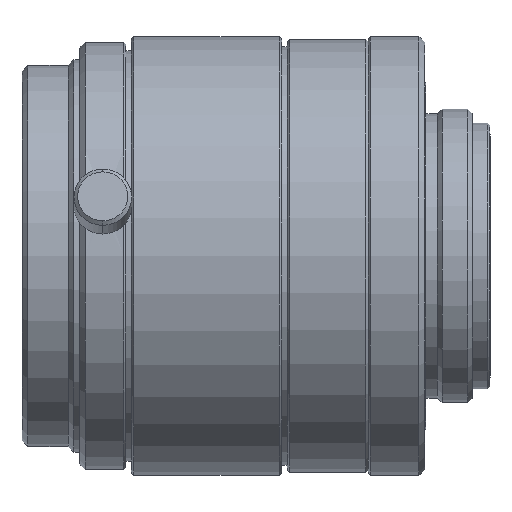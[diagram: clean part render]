
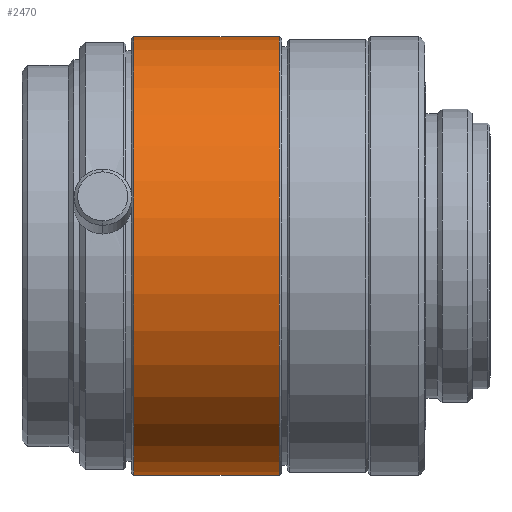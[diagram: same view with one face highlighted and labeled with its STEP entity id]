
A CAD part, top view. The second image highlights one B-rep face of the part: STEP entity #2470.
In plain terms, the highlighted cylindrical face has radius 19 mm (diameter 38 mm), a partial arc.
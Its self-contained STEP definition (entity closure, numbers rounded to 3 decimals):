
#49 = DIRECTION ( 'NONE',  ( 0., 1., 0. ) ) ;
#86 = DIRECTION ( 'NONE',  ( 0., 1., 0. ) ) ;
#206 = ORIENTED_EDGE ( 'NONE', *, *, #2044, .T. ) ;
#326 = VECTOR ( 'NONE', #734, 1000. ) ;
#421 = CARTESIAN_POINT ( 'NONE',  ( -42.826, -19., 0. ) ) ;
#445 = CARTESIAN_POINT ( 'NONE',  ( -42.826, 19., 0. ) ) ;
#457 = ORIENTED_EDGE ( 'NONE', *, *, #2351, .T. ) ;
#581 = ORIENTED_EDGE ( 'NONE', *, *, #2793, .F. ) ;
#645 = DIRECTION ( 'NONE',  ( 1., 0., 0. ) ) ;
#650 = VERTEX_POINT ( 'NONE', #421 ) ;
#734 = DIRECTION ( 'NONE',  ( 1., 0., 0. ) ) ;
#893 = CIRCLE ( 'NONE', #2580, 19. ) ;
#901 = ORIENTED_EDGE ( 'NONE', *, *, #1614, .F. ) ;
#921 = VERTEX_POINT ( 'NONE', #1112 ) ;
#1015 = VERTEX_POINT ( 'NONE', #445 ) ;
#1077 = DIRECTION ( 'NONE',  ( 1., 0., 0. ) ) ;
#1112 = CARTESIAN_POINT ( 'NONE',  ( -30.226, 19., 0. ) ) ;
#1157 = AXIS2_PLACEMENT_3D ( 'NONE', #2920, #1484, #49 ) ;
#1322 = DIRECTION ( 'NONE',  ( 0., 1., 0. ) ) ;
#1484 = DIRECTION ( 'NONE',  ( 1., 0., 0. ) ) ;
#1530 = DIRECTION ( 'NONE',  ( 1., 0., 0. ) ) ;
#1576 = CARTESIAN_POINT ( 'NONE',  ( 0., 0., 0. ) ) ;
#1599 = LINE ( 'NONE', #2191, #326 ) ;
#1614 = EDGE_CURVE ( 'NONE', #1015, #921, #3071, .T. ) ;
#1622 = CARTESIAN_POINT ( 'NONE',  ( -30.226, -19., 0. ) ) ;
#1630 = VERTEX_POINT ( 'NONE', #1622 ) ;
#1811 = AXIS2_PLACEMENT_3D ( 'NONE', #1576, #1077, #1322 ) ;
#1917 = CYLINDRICAL_SURFACE ( 'NONE', #1811, 19. ) ;
#2044 = EDGE_CURVE ( 'NONE', #1015, #650, #893, .T. ) ;
#2191 = CARTESIAN_POINT ( 'NONE',  ( 0., -19., 0. ) ) ;
#2351 = EDGE_CURVE ( 'NONE', #650, #1630, #1599, .T. ) ;
#2364 = CIRCLE ( 'NONE', #1157, 19. ) ;
#2452 = VECTOR ( 'NONE', #645, 1000. ) ;
#2470 = ADVANCED_FACE ( 'NONE', ( #2627 ), #1917, .T. ) ;
#2580 = AXIS2_PLACEMENT_3D ( 'NONE', #2958, #1530, #86 ) ;
#2581 = CARTESIAN_POINT ( 'NONE',  ( 0., 19., 0. ) ) ;
#2627 = FACE_OUTER_BOUND ( 'NONE', #3026, .T. ) ;
#2793 = EDGE_CURVE ( 'NONE', #921, #1630, #2364, .T. ) ;
#2920 = CARTESIAN_POINT ( 'NONE',  ( -30.226, 0., 0. ) ) ;
#2958 = CARTESIAN_POINT ( 'NONE',  ( -42.826, 0., 0. ) ) ;
#3026 = EDGE_LOOP ( 'NONE', ( #206, #457, #581, #901 ) ) ;
#3071 = LINE ( 'NONE', #2581, #2452 ) ;
